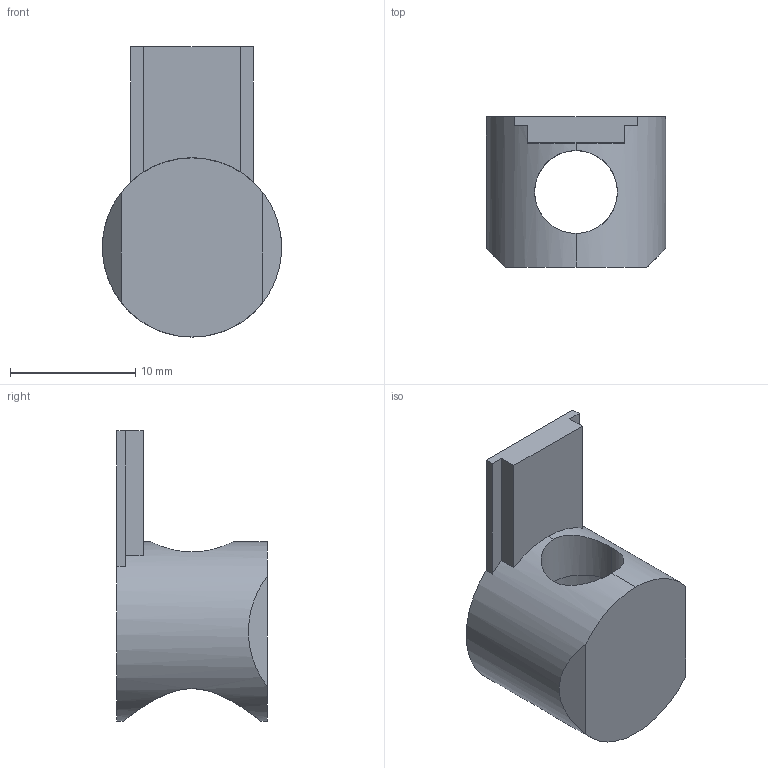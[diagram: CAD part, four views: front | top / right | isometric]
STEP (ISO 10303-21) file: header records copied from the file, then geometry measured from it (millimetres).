
FILE_DESCRIPTION (( 'STEP AP203' ), '1' );
FILE_NAME ('CP-UJT3030.STEP', '2018-03-15T13:01:22', ( '' ), ( '' ), 'SwSTEP 2.0', 'SolidWorks 2013', '' );
FILE_SCHEMA (( 'CONFIG_CONTROL_DESIGN' ));
Length unit declared in the file: millimetre
Products named in the file (1): CP-UJT3030
Bounding box: 14.29 x 12 x 23.15 mm (x, y, z)
Volume: 1035.7 mm3; surface area: 1383.8 mm2
Topology: 1 solids, 1 shells, 19 faces, 54 edges, 36 vertices
Faces by surface type: plane 13, cylinder 6
Entity records: 843 total; most frequent: CARTESIAN_POINT 272, ORIENTED_EDGE 108, DIRECTION 98, EDGE_CURVE 54, VERTEX_POINT 36, AXIS2_PLACEMENT_3D 34, LINE 30, VECTOR 30
